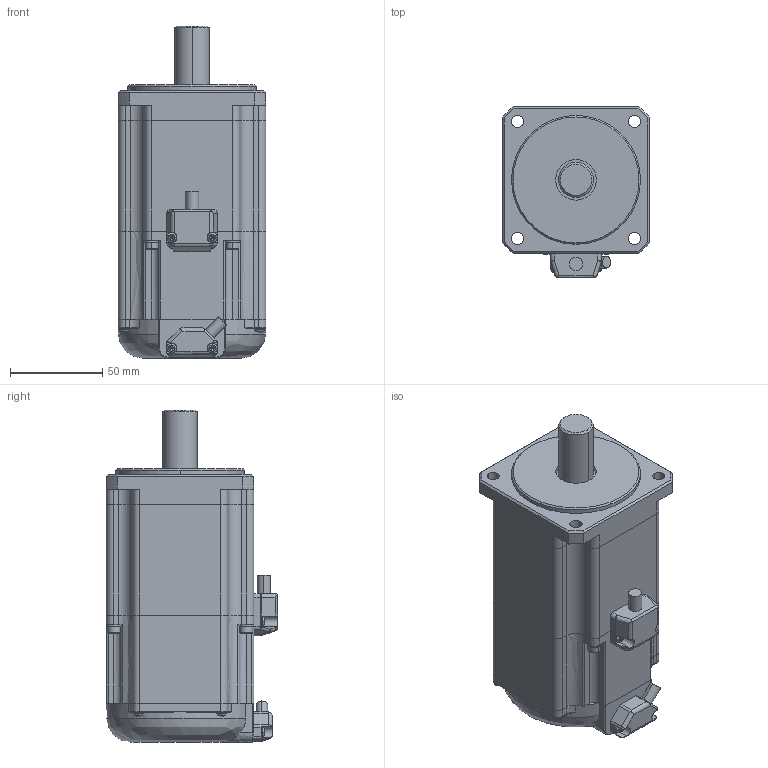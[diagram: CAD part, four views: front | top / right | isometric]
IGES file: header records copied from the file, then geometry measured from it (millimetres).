
Start section: Elysium IGES Interface
Global section: file name: 79H\\nas63\design\04MC研\saka\3DCAD\TBL-i2カタログまとめ\IGSデータ\TS4614_BK有.igs; native system: Creo Elements/Direct Modeling 17.0F  20-Aug-2012; preprocessor: Creo Element/Direct IGES_3D V2.2; author: Unknown; organization: Unknown; date: 20161222.163758; units: millimetre
Bounding box: 80 x 93 x 180.3 mm (x, y, z)
Volume: 827864.7 mm3; surface area: 59589.8 mm2
Topology: 1 solids, 1 shells, 638 faces, 1496 edges, 860 vertices
Faces by surface type: bspline 638
